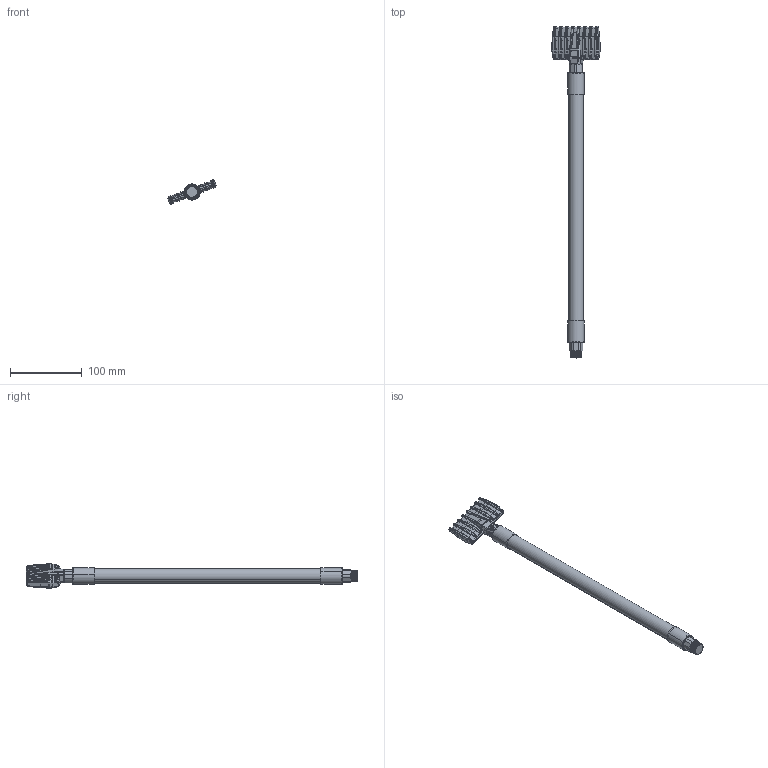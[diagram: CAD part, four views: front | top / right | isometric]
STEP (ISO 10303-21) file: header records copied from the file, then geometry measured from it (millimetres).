
FILE_DESCRIPTION (( 'STEP AP214' ), '1' );
FILE_NAME ('9005W-S-400.STEP', '2024-10-17T06:30:21', ( '' ), ( '' ), 'SwSTEP 2.0', 'SolidWorks 2021', '' );
FILE_SCHEMA (( 'AUTOMOTIVE_DESIGN' ));
Length unit declared in the file: millimetre
Products named in the file (8): FB38 hose_400; 70038_M_BSP MALE; 70038_F_BSP FEMALE; 70039; FB38; 9005W-S; 70078; 9005W-S-400
Assembly tree (8 placements, depth 3):
  9005W-S-400
    FB38
      70038_M_BSP MALE
      FB38 hose_400
      70039  x2
      70038_F_BSP FEMALE
    70078
    9005W-S
Bounding box: 67.83 x 463.5 x 33.8 mm (x, y, z)
Volume: 167889.8 mm3; surface area: 48755.5 mm2
Topology: 7 solids, 7 shells, 1760 faces, 5098 edges, 3309 vertices
Faces by surface type: cylinder 829, bspline 526, plane 265, torus 64, sphere 56, cone 20
Entity records: 84508 total; most frequent: CARTESIAN_POINT 36023, ORIENTED_EDGE 8434, DIRECTION 5596, EDGE_CURVE 4217, VERTEX_POINT 2610, AXIS2_PLACEMENT_3D 2177, EDGE_LOOP 1649, ADVANCED_FACE 1632
